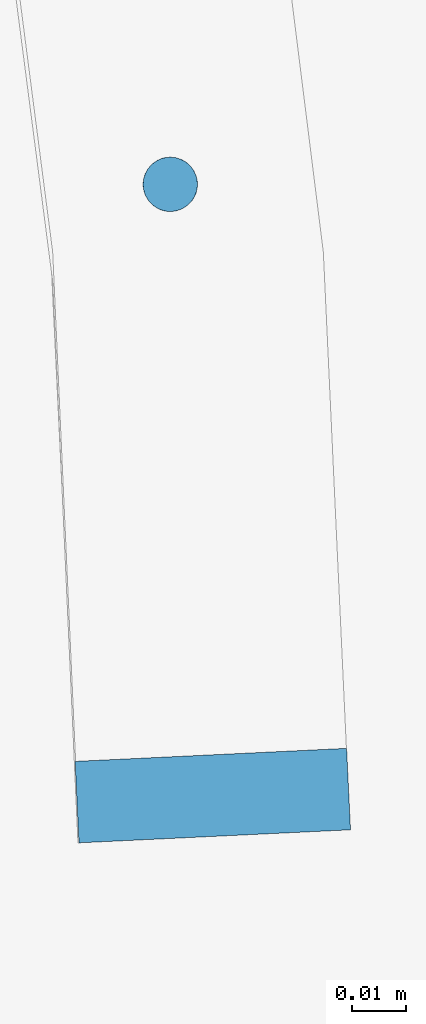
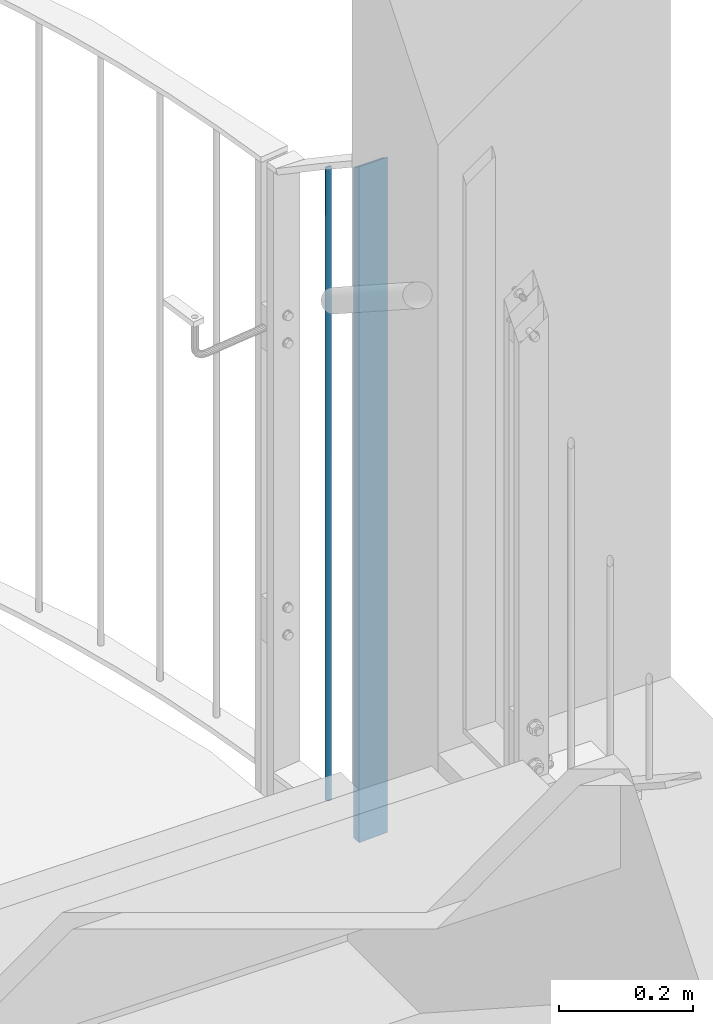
# One storey, part 85 of 296: 2 columns.
"""IFC2X3 building model written with IfcOpenShell, lengths in millimetres."""

from ifc_helpers import new_model, entity, si_unit, converted_unit, frame, origin, origin_with_axes, origin_2d, place, context, project, spatial, rectangle, circle, extrude, clip, halfspace, material, element, save


model = new_model("IFC2X3")

# Units and contexts
model_context = context("Model", 3, precision=1e-09, world=origin_with_axes())
ifc_project = project(units=[si_unit("LENGTHUNIT", "METRE", prefix="MILLI"), si_unit("AREAUNIT", "SQUARE_METRE"), si_unit("VOLUMEUNIT", "CUBIC_METRE"), converted_unit("PLANEANGLEUNIT", "DEGREE", entity("IfcPlaneAngleMeasure", 0.01745329), si_unit("PLANEANGLEUNIT", "RADIAN"), dimensions=[0, 0, 0, 0, 0, 0, 0])], contexts=[model_context])

# Site, building, storey
site_placement = place(None, origin_with_axes())
site = spatial("IfcSite", under=ifc_project, at=site_placement, Name="TZD-S?d | Treppenhausgel?nder", CompositionType="ELEMENT")
building_placement = place(site_placement, origin_with_axes())
building = spatial("IfcBuilding", under=site, at=building_placement, Name="Struktur 1", CompositionType="ELEMENT")
storey_placement = place(building_placement, origin_with_axes())
storey = spatial("IfcBuildingStorey", under=building, at=storey_placement, Name="Default Storey", CompositionType="ELEMENT", Elevation=0.0)

# Columns
ifc_material = material(Name="S235JR")
column_1_placement = place(None, frame((5911.196839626, 50.945967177, 3703.176159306), z_axis=(0.0, 0.0, 1.0), x_axis=(0.047978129, -0.998848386, 0.0)))
element("IfcColumn", 1, at=column_1_placement, inside=storey, material=ifc_material, Name="-", ObjectType="-", context=model_context, shape_type="Clipping", body=[
    clip(extrude(rectangle(XDim=15.0, YDim=50.0, at=origin_2d()), origin(), (0.0, 0.0, -1.0), 1253.176159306), halfspace(frame((-1921.293977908, -5825.725734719, -1092.987856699), z_axis=(0.542982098, -0.0260813, -0.839339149), x_axis=(0.047978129, 0.998848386, 0.0)), True)),
])
column_2_placement = place(None, frame((5903.37643005, 163.389143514, 2450.0), z_axis=(0.0, 0.0, -1.0), x_axis=(0.0, 1.0, 0.0)))
element("IfcColumn", 2, at=column_2_placement, inside=storey, material=ifc_material, Name="-", ObjectType="-", context=model_context, shape_type="Clipping", body=[
    clip(extrude(circle(Radius=5.0, at=origin_2d()), origin(), (0.0, 0.0, -1.0), 1157.678740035), halfspace(frame((1527.130795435, -5903.37643005, -160.188302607), z_axis=(-0.543608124, 0.0, 0.839339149), x_axis=(0.0, 1.0, 0.0)), True)),
])

save(model, "model.ifc")
